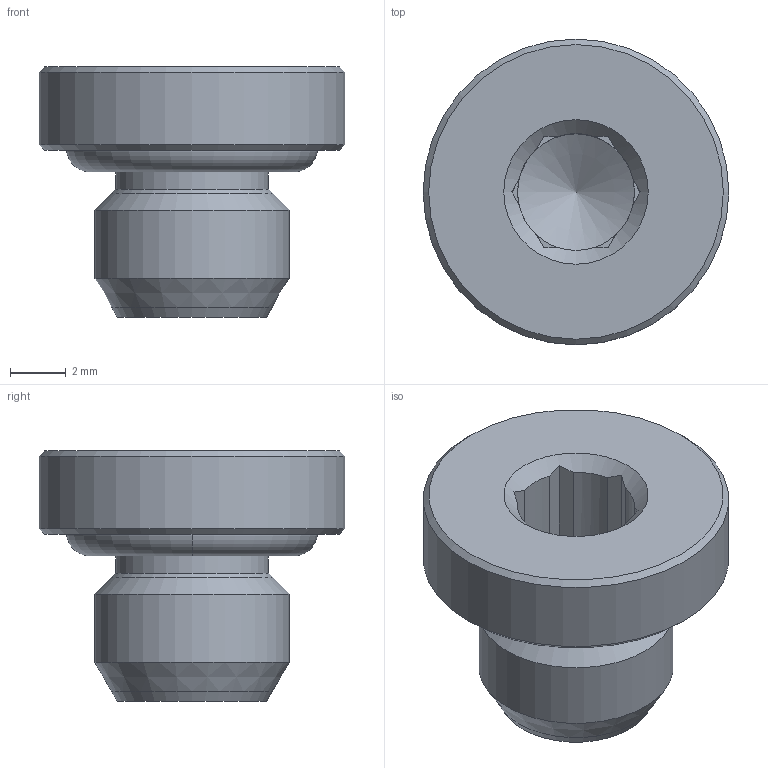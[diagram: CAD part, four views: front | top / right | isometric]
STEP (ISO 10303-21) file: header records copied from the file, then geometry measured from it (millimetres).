
FILE_DESCRIPTION(('Bauteilbeschreibung','HiCAD-Model','HiCAD-STEP-TRANSLATION','Bauteilbeschreibung'),'2;1');
FILE_NAME('B:/ABGLEICH/ZEICHNUNGEN/STEP FÜR INTERNET/STEP/107-OR/30151_107-OR_M7.STP','2012-08-08T15:07:04+00:00',('Konstrukteur'),('Konstrukteur Firma GmbH'),' HiCAD neXt 2008, Step 3.1.1401.2J ','HiCAD neXt 2008','confidential');
FILE_SCHEMA(('AUTOMOTIVE_DESIGN { 1 2 10303 214 0 1 1 1 }'));
Length unit declared in the file: millimetre
Products named in the file (5): A0151_107_OR_M7; A0151; A01510; DIN 13_M7; OR 5_28X1_78
Assembly tree (4 placements, depth 3):
  A0151_107_OR_M7
    A0151
    A01510
      DIN 13_M7
    OR 5_28X1_78
Bounding box: 11 x 11 x 9 mm (x, y, z)
Volume: 392.4 mm3; surface area: 812.9 mm2
Topology: 3 solids, 3 shells, 43 faces, 107 edges, 68 vertices
Faces by surface type: plane 22, cone 9, cylinder 6, torus 6
Full cylindrical faces by diameter (mm): 4.2 x1, 5.5 x1, 5.773 x2, 7 x1, 11 x1
Entity records: 1607 total; most frequent: CARTESIAN_POINT 216, DIRECTION 210, ORIENTED_EDGE 162, AXIS2_PLACEMENT_3D 90, EDGE_CURVE 81, COLOUR_RGB 76, PRESENTATION_STYLE_ASSIGNMENT 76, CURVE_STYLE 73
